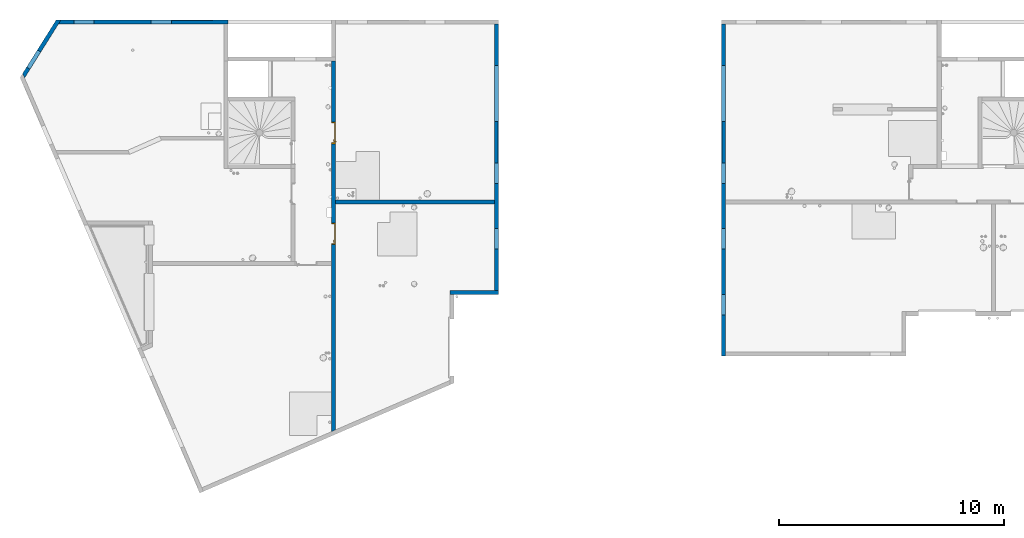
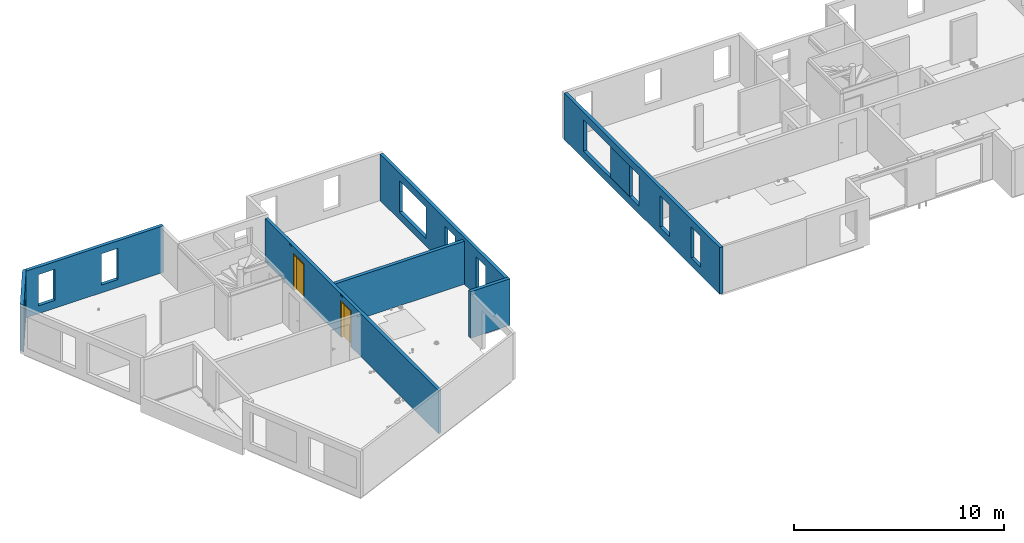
# One storey, part 5 of 24: 7 walls, 2 doors, 17 openings.
"""IFC2X3 building model written with IfcOpenShell, lengths in centimetres."""

from ifc_helpers import new_model, entity, si_unit, converted_unit, derived_unit, direction, frame, frame_2d, origin, place, context, subcontext, project, spatial, polyline, rectangle, outline, extrude, faceted_brep, source, transform, mapped, material, material_list, layer, layer_set, layer_usage, type_object, type_shapes, element, fill, save


model = new_model("IFC2X3")

# Units and contexts
model_context = context("Model", 3, precision=0.001, world=origin(), true_north=direction((6.12303176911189e-17, 1.0)))
body_context = subcontext(model_context, "Body", "Model", "MODEL_VIEW")
ifc_project = project(units=[si_unit("LENGTHUNIT", "METRE", prefix="CENTI"), si_unit("AREAUNIT", "SQUARE_METRE"), si_unit("VOLUMEUNIT", "CUBIC_METRE"), converted_unit("PLANEANGLEUNIT", "DEGREE", entity("IfcRatioMeasure", 0.0174532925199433), si_unit("PLANEANGLEUNIT", "RADIAN"), dimensions=[0, 0, 0, 0, 0, 0, 0]), si_unit("MASSUNIT", "GRAM", prefix="KILO"), derived_unit("MASSDENSITYUNIT", [(si_unit("MASSUNIT", "GRAM", prefix="KILO"), 1), (si_unit("LENGTHUNIT", "METRE"), -3)]), si_unit("TIMEUNIT", "SECOND"), si_unit("FREQUENCYUNIT", "HERTZ"), si_unit("THERMODYNAMICTEMPERATUREUNIT", "DEGREE_CELSIUS"), derived_unit("THERMALTRANSMITTANCEUNIT", [(si_unit("MASSUNIT", "GRAM", prefix="KILO"), 1), (si_unit("THERMODYNAMICTEMPERATUREUNIT", "KELVIN"), -1), (si_unit("TIMEUNIT", "SECOND"), -3)]), derived_unit("VOLUMETRICFLOWRATEUNIT", [(si_unit("LENGTHUNIT", "METRE"), 3), (si_unit("TIMEUNIT", "SECOND"), -1)]), si_unit("ELECTRICCURRENTUNIT", "AMPERE"), si_unit("ELECTRICVOLTAGEUNIT", "VOLT"), si_unit("POWERUNIT", "WATT"), si_unit("FORCEUNIT", "NEWTON"), si_unit("ILLUMINANCEUNIT", "LUX"), si_unit("LUMINOUSFLUXUNIT", "LUMEN"), si_unit("LUMINOUSINTENSITYUNIT", "CANDELA"), derived_unit("USERDEFINED", [(si_unit("MASSUNIT", "GRAM", prefix="KILO"), -1), (si_unit("LENGTHUNIT", "METRE"), -2), (si_unit("TIMEUNIT", "SECOND"), 3), (si_unit("LUMINOUSFLUXUNIT", "LUMEN"), 1)]), derived_unit("LINEARVELOCITYUNIT", [(si_unit("LENGTHUNIT", "METRE"), 1), (si_unit("TIMEUNIT", "SECOND"), -1)]), si_unit("PRESSUREUNIT", "PASCAL"), derived_unit("USERDEFINED", [(si_unit("LENGTHUNIT", "METRE"), -2), (si_unit("MASSUNIT", "GRAM", prefix="KILO"), 1), (si_unit("TIMEUNIT", "SECOND"), -2)])], contexts=[model_context])

# Site, building, storey
site_placement = place(None, origin())
site = spatial("IfcSite", under=ifc_project, at=site_placement, Name="Default", CompositionType="ELEMENT")
building_placement = place(site_placement, origin())
building = spatial("IfcBuilding", under=site, at=building_placement, Name="CAGE 03", CompositionType="ELEMENT")
storey_placement = place(building_placement, frame((0.0, 0.0, 1150.0)))
storey = spatial("IfcBuildingStorey", under=building, at=storey_placement, Name="R+4", CompositionType="ELEMENT", Elevation=1150.0)

# Wall, opening
ifc_material_1 = material(Name="Béton, C25/30")
ifc_layer = layer(ifc_material_1, 18.0)
ifc_layer_set = layer_set([ifc_layer], Name="Mur de base:Voile BA 18")
ifc_layer_usage_1 = layer_usage(ifc_layer_set, "AXIS2", "NEGATIVE", 9.0)
wall_type = type_object("IfcWallType", Name="Mur de base:Voile BA 18", PredefinedType="STANDARD", material=ifc_layer_set)
wall_1_placement = place(storey_placement, frame((2759.68470555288, 5040.14221656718, 0.0), z_axis=(0.0, 0.0, 1.0), x_axis=(0.53179185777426, 0.846875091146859, 0.0)))
wall_1 = element("IfcWallStandardCase", 1, at=wall_1_placement, inside=storey, type_object=wall_type, material=ifc_layer_usage_1, Name="Mur de base:Voile BA 18", ObjectType="Mur de base:Voile BA 18", context=body_context, shape_type="SweptSolid", body=[
    extrude(outline(polyline([(305.009060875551, -9.0), (293.706032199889, 9.0), (12.3599581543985, 9.0), (0.0, -9.0), (283.754450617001, -9.0), (305.009060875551, -9.0)])), origin(), (0.0, 0.0, 1.0), 270.0),
])
opening_1_placement = place(wall_1_placement, frame((-5735.94875548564, -343.198356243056, 0.0), z_axis=(0.0, 0.0, 1.0), x_axis=(0.53179185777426, -0.846875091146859, 0.0)))
element("IfcOpeningElement", 2, at=opening_1_placement, cuts=wall_1, Name="Mur de base:Voile BA 18", ObjectType="Opening", context=body_context, shape_type="SweptSolid", body=[
    extrude(rectangle(XDim=181.0, YDim=91.0, at=frame_2d((-2.1316282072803e-13, 4.83169060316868e-13), x_axis=(1.0, 0.0))), frame((2929.58106391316, 5041.04669444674, 135.5), z_axis=(-0.846875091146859, 0.53179185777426, 0.0), x_axis=(0.0, 0.0, 1.0)), (0.0, 0.0, 1.0), 304.8),
])

# Wall, openings
ifc_layer_usage_2 = layer_usage(ifc_layer_set, "AXIS2", "NEGATIVE", 9.0)
wall_2_placement = place(storey_placement, frame((2918.20488781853, 5284.66066607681, 0.0)))
wall_2 = element("IfcWallStandardCase", 3, at=wall_2_placement, inside=storey, type_object=wall_type, material=ifc_layer_usage_2, Name="Mur de base:Voile BA 18", ObjectType="Mur de base:Voile BA 18", context=body_context, shape_type="SweptSolid", body=[
    extrude(outline(polyline([(754.160932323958, -9.0), (754.160932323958, 9.0), (11.3030286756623, 9.0), (0.0, -9.0), (736.160932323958, -9.0), (754.160932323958, -9.0)])), origin(), (0.0, 0.0, 1.0), 270.0),
])
opening_2_placement = place(wall_2_placement, origin())
element("IfcOpeningElement", 4, at=opening_2_placement, cuts=wall_2, Name="Mur de base:Voile BA 18", ObjectType="Recess", context=body_context, shape_type="SweptSolid", body=[
    extrude(rectangle(XDim=181.0, YDim=184.0, at=frame_2d((-1.06581410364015e-13, 0.0), x_axis=(1.0, 0.0))), frame((596.160932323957, 7.0, 135.5), z_axis=(0.0, 1.0, 0.0), x_axis=(0.0, 0.0, -1.0)), (0.0, 0.0, 1.0), 1.99999999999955),
])
opening_3_placement = place(wall_2_placement, frame((-2918.20488781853, -5284.66066607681, 0.0)))
element("IfcOpeningElement", 5, at=opening_3_placement, cuts=wall_2, Name="Mur de base:Voile BA 18", ObjectType="Opening", context=body_context, shape_type="SweptSolid", body=[
    extrude(rectangle(XDim=181.0, YDim=91.0000000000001, at=frame_2d((-2.1316282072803e-13, 0.0), x_axis=(1.0, 0.0))), frame((3376.86582014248, 5123.26066607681, 135.5), z_axis=(0.0, 1.0, 0.0), x_axis=(0.0, 0.0, 1.0)), (0.0, 0.0, 1.0), 304.8),
])
opening_4_placement = place(wall_2_placement, frame((-2918.20488781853, -5284.66066607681, 0.0)))
element("IfcOpeningElement", 6, at=opening_4_placement, cuts=wall_2, Name="Mur de base:Voile BA 18", ObjectType="Opening", context=body_context, shape_type="SweptSolid", body=[
    extrude(rectangle(XDim=181.0, YDim=91.0000000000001, at=frame_2d((-2.1316282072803e-13, 0.0), x_axis=(1.0, 0.0))), frame((3031.86582014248, 5123.26066607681, 135.5), z_axis=(0.0, 1.0, 0.0), x_axis=(0.0, 0.0, 1.0)), (0.0, 0.0, 1.0), 304.8),
])

# Wall
ifc_layer_usage_3 = layer_usage(ifc_layer_set, "AXIS2", "POSITIVE", -9.0)
wall_3_placement = place(storey_placement, frame((4662.36582014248, 4081.16066607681, 0.0)))
element("IfcWallStandardCase", 7, at=wall_3_placement, inside=storey, type_object=wall_type, material=ifc_layer_usage_3, Name="Mur de base:Voile BA 18", ObjectType="Mur de base:Voile BA 18", context=body_context, shape_type="SweptSolid", body=[
    extrude(rectangle(XDim=216.0, YDim=17.9999999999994, at=frame_2d((108.0, -7.63833440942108e-14), x_axis=(-1.0, 0.0))), origin(), (0.0, 0.0, 1.0), 270.0),
])

# Wall, openings
ifc_layer_usage_4 = layer_usage(ifc_layer_set, "AXIS2", "POSITIVE", -9.0)
wall_4_placement = place(storey_placement, frame((4869.36582014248, 4090.16066607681, 0.0), z_axis=(0.0, 0.0, 1.0), x_axis=(0.0, 1.0, 0.0)))
wall_4 = element("IfcWallStandardCase", 8, at=wall_4_placement, inside=storey, type_object=wall_type, material=ifc_layer_usage_4, Name="Mur de base:Voile BA 18", ObjectType="Mur de base:Voile BA 18", context=body_context, shape_type="SweptSolid", body=[
    extrude(rectangle(XDim=1185.5, YDim=17.9999999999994, at=frame_2d((592.75, -1.26121335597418e-13), x_axis=(-1.0, 0.0))), origin(), (0.0, 0.0, 1.0), 270.0),
])
opening_5_placement = place(wall_4_placement, origin())
element("IfcOpeningElement", 9, at=opening_5_placement, cuts=wall_4, Name="Mur de base:Voile BA 18", ObjectType="Recess", context=body_context, shape_type="SweptSolid", body=[
    extrude(rectangle(XDim=181.0, YDim=184.0, at=frame_2d((-1.06581410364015e-13, 0.0), x_axis=(1.0, 0.0))), frame((658.499999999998, -9.0, 135.5), z_axis=(0.0, 1.0, 0.0), x_axis=(0.0, 0.0, -1.0)), (0.0, 0.0, 1.0), 1.99999999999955),
])
opening_6_placement = place(wall_4_placement, frame((-4090.16066607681, 4869.36582014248, 0.0), z_axis=(0.0, 0.0, 1.0), x_axis=(0.0, -1.0, 0.0)))
element("IfcOpeningElement", 10, at=opening_6_placement, cuts=wall_4, Name="Mur de base:Voile BA 18", ObjectType="Opening", context=body_context, shape_type="SweptSolid", body=[
    extrude(rectangle(XDim=181.0, YDim=91.0000000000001, at=frame_2d((-2.1316282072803e-13, 0.0), x_axis=(1.0, 0.0))), frame((5012.76582014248, 4611.16066607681, 135.5), z_axis=(-1.0, 0.0, 0.0), x_axis=(0.0, 0.0, 1.0)), (0.0, 0.0, 1.0), 304.8),
])
opening_7_placement = place(wall_4_placement, frame((-4090.16066607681, 4869.36582014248, 0.0), z_axis=(0.0, 0.0, 1.0), x_axis=(0.0, -1.0, 0.0)))
element("IfcOpeningElement", 11, at=opening_7_placement, cuts=wall_4, Name="Mur de base:Voile BA 18", ObjectType="Opening", context=body_context, shape_type="SweptSolid", body=[
    extrude(rectangle(XDim=181.0, YDim=251.0, at=frame_2d((-2.1316282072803e-13, 0.0), x_axis=(1.0, 0.0))), frame((5012.76582014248, 4966.16066607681, 135.5), z_axis=(-1.0, 0.0, 0.0), x_axis=(0.0, 0.0, 1.0)), (0.0, 0.0, 1.0), 304.8),
])
opening_8_placement = place(wall_4_placement, frame((-4090.16066607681, 4869.36582014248, 0.0), z_axis=(0.0, 0.0, 1.0), x_axis=(0.0, -1.0, 0.0)))
element("IfcOpeningElement", 12, at=opening_8_placement, cuts=wall_4, Name="Mur de base:Voile BA 18", ObjectType="Opening", context=body_context, shape_type="SweptSolid", body=[
    extrude(rectangle(XDim=181.0, YDim=91.0000000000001, at=frame_2d((-2.1316282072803e-13, 0.0), x_axis=(1.0, 0.0))), frame((5012.76582014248, 4320.16066607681, 135.5), z_axis=(-1.0, 0.0, 0.0), x_axis=(0.0, 0.0, 1.0)), (0.0, 0.0, 1.0), 304.8),
])

ifc_layer_usage_5 = layer_usage(ifc_layer_set, "AXIS2", "POSITIVE", -9.0)
wall_5_placement = place(storey_placement, frame((5879.36582014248, 5275.6606660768, 0.0), z_axis=(0.0, 0.0, 1.0), x_axis=(0.0, -1.0, 0.0)))
wall_5 = element("IfcWallStandardCase", 13, at=wall_5_placement, inside=storey, type_object=wall_type, material=ifc_layer_usage_5, Name="Mur de base:Voile BA 18", ObjectType="Mur de base:Voile BA 18", context=body_context, shape_type="SweptSolid", body=[
    extrude(rectangle(XDim=1479.0, YDim=17.9999999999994, at=frame_2d((739.499999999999, 2.36255459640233e-13), x_axis=(-1.0, 0.0))), origin(), (0.0, 0.0, 1.0), 270.0),
])
opening_9_placement = place(wall_5_placement, origin())
element("IfcOpeningElement", 14, at=opening_9_placement, cuts=wall_5, Name="Mur de base:Voile BA 18", ObjectType="Recess", context=body_context, shape_type="SweptSolid", body=[
    extrude(rectangle(XDim=181.0, YDim=184.0, at=frame_2d((0.0, -1.06581410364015e-13), x_axis=(0.0, 1.0))), frame((527.0, -9.0, 135.5), z_axis=(0.0, 1.0, 0.0), x_axis=(1.0, 0.0, 0.0)), (0.0, 0.0, 1.0), 1.99999999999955),
])
opening_10_placement = place(wall_5_placement, frame((5275.6606660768, -5879.36582014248, 0.0), z_axis=(0.0, 0.0, 1.0), x_axis=(0.0, 1.0, 0.0)))
element("IfcOpeningElement", 15, at=opening_10_placement, cuts=wall_5, Name="Mur de base:Voile BA 18", ObjectType="Opening", context=body_context, shape_type="SweptSolid", body=[
    extrude(rectangle(XDim=181.0, YDim=91.0000000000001, at=frame_2d((0.0, 0.0), x_axis=(0.0, 1.0))), frame((5735.96582014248, 4611.1606660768, 135.5), z_axis=(1.0, 0.0, 0.0), x_axis=(0.0, 1.0, 0.0)), (0.0, 0.0, 1.0), 304.8),
])
opening_11_placement = place(wall_5_placement, frame((5275.6606660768, -5879.36582014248, 0.0), z_axis=(0.0, 0.0, 1.0), x_axis=(0.0, 1.0, 0.0)))
element("IfcOpeningElement", 16, at=opening_11_placement, cuts=wall_5, Name="Mur de base:Voile BA 18", ObjectType="Opening", context=body_context, shape_type="SweptSolid", body=[
    extrude(rectangle(XDim=181.0, YDim=251.0, at=frame_2d((0.0, 0.0), x_axis=(0.0, 1.0))), frame((5735.96582014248, 4966.1606660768, 135.5), z_axis=(1.0, 0.0, 0.0), x_axis=(0.0, 1.0, 0.0)), (0.0, 0.0, 1.0), 304.8),
])
opening_12_placement = place(wall_5_placement, frame((5275.6606660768, -5879.36582014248, 0.0), z_axis=(0.0, 0.0, 1.0), x_axis=(0.0, 1.0, 0.0)))
element("IfcOpeningElement", 17, at=opening_12_placement, cuts=wall_5, Name="Mur de base:Voile BA 18", ObjectType="Opening", context=body_context, shape_type="SweptSolid", body=[
    extrude(rectangle(XDim=181.0, YDim=91.0000000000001, at=frame_2d((0.0, 0.0), x_axis=(0.0, 1.0))), frame((5735.96582014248, 4025.16066607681, 135.5), z_axis=(1.0, 0.0, 0.0), x_axis=(0.0, 1.0, 0.0)), (0.0, 0.0, 1.0), 304.8),
])
opening_13_placement = place(wall_5_placement, frame((5275.6606660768, -5879.36582014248, 0.0), z_axis=(0.0, 0.0, 1.0), x_axis=(0.0, 1.0, 0.0)))
element("IfcOpeningElement", 18, at=opening_13_placement, cuts=wall_5, Name="Mur de base:Voile BA 18", ObjectType="Opening", context=body_context, shape_type="SweptSolid", body=[
    extrude(rectangle(XDim=181.0, YDim=91.0000000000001, at=frame_2d((0.0, 0.0), x_axis=(0.0, 1.0))), frame((5735.96582014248, 4320.1606660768, 135.5), z_axis=(1.0, 0.0, 0.0), x_axis=(0.0, 1.0, 0.0)), (0.0, 0.0, 1.0), 304.8),
])

# Wall
ifc_layer_usage_6 = layer_usage(ifc_layer_set, "AXIS2", "NEGATIVE", 9.0)
wall_6_placement = place(storey_placement, frame((4152.36582014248, 4483.66066607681, 0.0)))
element("IfcWallStandardCase", 19, at=wall_6_placement, inside=storey, type_object=wall_type, material=ifc_layer_usage_6, Name="Mur de base:Voile BA 18", ObjectType="Mur de base:Voile BA 18", context=body_context, shape_type="SweptSolid", body=[
    extrude(rectangle(XDim=708.000000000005, YDim=17.9999999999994, at=frame_2d((354.000000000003, 2.16715534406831e-13), x_axis=(-1.0, 0.0))), origin(), (0.0, 0.0, 1.0), 250.0),
])

# Wall, openings, doors
ifc_layer_usage_7 = layer_usage(ifc_layer_set, "AXIS2", "POSITIVE", -9.0)
wall_7_placement = place(storey_placement, frame((4143.36582014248, 5110.66066607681, 0.0), z_axis=(0.0, 0.0, 1.0), x_axis=(0.0, -1.0, 0.0)))
wall_7 = element("IfcWallStandardCase", 20, at=wall_7_placement, inside=storey, type_object=wall_type, material=ifc_layer_usage_7, Name="Mur de base:Voile BA 18", ObjectType="Mur de base:Voile BA 18", context=body_context, shape_type="SweptSolid", body=[
    extrude(outline(polyline([(0.0, -9.0), (654.499999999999, -9.0), (694.499999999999, -9.0), (892.499999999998, -9.0), (910.499999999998, -9.0), (1649.885805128, -9.0), (1642.09747984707, 9.0), (636.0, 9.0), (618.0, 9.0), (0.0, 9.0), (0.0, -9.0)])), origin(), (0.0, 0.0, 1.0), 250.0),
])
opening_14_placement = place(wall_7_placement, origin())
element("IfcOpeningElement", 21, at=opening_14_placement, cuts=wall_7, Name="Mur de base:Voile BA 18", ObjectType="Opening", context=body_context, shape_type="SweptSolid", body=[
    extrude(rectangle(XDim=10.0000000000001, YDim=19.9999999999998, at=frame_2d((-4.33431068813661e-13, 1.08357767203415e-13), x_axis=(0.0, 1.0))), frame((728.0, -9.0, 242.500000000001), z_axis=(0.0, 1.0, 0.0), x_axis=(1.0, 0.0, 0.0)), (0.0, 0.0, 1.0), 17.9999999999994),
])
opening_15_placement = place(wall_7_placement, origin())
element("IfcOpeningElement", 22, at=opening_15_placement, cuts=wall_7, Name="Mur de base:Voile BA 18", ObjectType="Opening", context=body_context, shape_type="SweptSolid", body=[
    extrude(rectangle(XDim=10.0000000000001, YDim=19.9999999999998, at=frame_2d((-4.33431068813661e-13, 1.08357767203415e-13), x_axis=(0.0, 1.0))), frame((240.0, -9.0, 242.500000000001), z_axis=(0.0, 1.0, 0.0), x_axis=(1.0, 0.0, 0.0)), (0.0, 0.0, 1.0), 17.9999999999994),
])
opening_16_placement = place(wall_7_placement, frame((720.0, -9.0, 0.0)))
opening_16 = element("IfcOpeningElement", 23, at=opening_16_placement, cuts=wall_7, Name="Int. Simple:HB93:1", ObjectType="Opening", context=body_context, shape_type="SweptSolid", body=[
    extrude(rectangle(XDim=210.000000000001, YDim=96.9999999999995, at=frame_2d((105.000000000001, 48.4999999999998), x_axis=(1.0, 0.0))), frame((0.0, 0.0, 0.0), z_axis=(0.0, 1.0, 0.0), x_axis=(0.0, 0.0, 1.0)), (0.0, 0.0, 1.0), 18.0),
])
opening_17_placement = place(wall_7_placement, frame((271.500000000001, -9.0, 0.0)))
opening_17 = element("IfcOpeningElement", 24, at=opening_17_placement, cuts=wall_7, Name="Int. Simple:HB93:1", ObjectType="Opening", context=body_context, shape_type="SweptSolid", body=[
    extrude(rectangle(XDim=210.000000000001, YDim=96.9999999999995, at=frame_2d((105.000000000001, 48.4999999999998), x_axis=(1.0, 0.0))), frame((0.0, 0.0, 0.0), z_axis=(0.0, 1.0, 0.0), x_axis=(0.0, 0.0, 1.0)), (0.0, 0.0, 1.0), 18.0),
])
ifc_material_2 = material(Name="Finition Peinture - Blanc satiné")
ifc_material_3 = material(Name="Bois - Panneau de porte")
ifc_material_4 = material(Name="Bois - Cadre de porte")
ifc_material_list_1 = material_list([ifc_material_2, ifc_material_3, ifc_material_4])
ifc_material_list_2 = material_list([ifc_material_2, ifc_material_3, ifc_material_4])
door_style = type_object("IfcDoorStyle", Name="HB93", ConstructionType="NOTDEFINED", OperationType="SINGLE_SWING_LEFT", ParameterTakesPrecedence=False, Sizeable=False, material=ifc_material_list_2)
shared_shape = source(origin(), body_context, "Body", "Brep", [
    faceted_brep([(10.5352761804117, -0.500000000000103, 86.6003983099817), (11.5000000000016, -0.500000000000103, 87.0), (11.5000000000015, -0.500000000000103, 108.0), (10.5352761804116, -0.500000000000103, 108.399601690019), (9.50000000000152, -0.500000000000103, 108.535898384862), (8.46472381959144, -0.500000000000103, 108.399601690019), (7.50000000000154, -0.500000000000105, 108.0), (7.50000000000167, -0.500000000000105, 87.0), (8.46472381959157, -0.500000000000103, 86.6003983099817), (9.50000000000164, -0.500000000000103, 86.464101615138), (10.5352761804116, 0.0, 108.399601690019), (11.5000000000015, 0.0, 108.0), (11.5000000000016, 0.0, 87.0), (10.5352761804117, 0.0, 86.6003983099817), (9.50000000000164, 0.0, 86.464101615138), (8.46472381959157, 0.0, 86.6003983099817), (7.50000000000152, 0.0, 87.0), (7.50000000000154, 0.0, 108.0), (8.46472381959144, 0.0, 108.399601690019), (9.50000000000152, 0.0, 108.535898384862)], [[[0, 1, 2, 3, 4, 5, 6, 7, 8, 9]], [[10, 11, 12, 13, 14, 15, 16, 17, 18, 19]], [[16, 15, 8, 7]], [[8, 15, 14, 9]], [[14, 13, 0, 9]], [[13, 12, 1, 0]], [[2, 1, 12, 11]], [[11, 10, 3, 2]], [[3, 10, 19, 4]], [[19, 18, 5, 4]], [[18, 17, 6, 5]], [[7, 6, 17, 16]]]),
    faceted_brep([(10.5352761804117, 4.0, 86.6003983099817), (11.5000000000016, 4.0, 87.0), (11.5000000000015, 4.0, 108.0), (10.5352761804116, 4.0, 108.399601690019), (9.50000000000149, 4.0, 108.535898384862), (8.46472381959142, 4.0, 108.399601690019), (7.50000000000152, 4.0, 108.0), (7.50000000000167, 4.0, 87.0), (8.46472381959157, 4.0, 86.6003983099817), (9.50000000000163, 4.0, 86.464101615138), (10.5352761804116, 4.49999999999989, 108.399601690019), (11.5000000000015, 4.4999999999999, 108.0), (11.5000000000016, 4.4999999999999, 87.0), (10.5352761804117, 4.49999999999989, 86.6003983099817), (9.50000000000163, 4.49999999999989, 86.464101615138), (8.46472381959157, 4.49999999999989, 86.6003983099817), (7.50000000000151, 4.49999999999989, 87.0), (7.50000000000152, 4.49999999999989, 108.0), (8.46472381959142, 4.49999999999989, 108.399601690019), (9.50000000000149, 4.49999999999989, 108.535898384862)], [[[0, 1, 2, 3, 4, 5, 6, 7, 8, 9]], [[10, 11, 12, 13, 14, 15, 16, 17, 18, 19]], [[11, 10, 3, 2]], [[3, 10, 19, 4]], [[19, 18, 5, 4]], [[18, 17, 6, 5]], [[7, 6, 17, 16]], [[16, 15, 8, 7]], [[8, 15, 14, 9]], [[14, 13, 0, 9]], [[13, 12, 1, 0]], [[2, 1, 12, 11]]]),
    faceted_brep([(9.29747013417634, -0.500000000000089, 100.778044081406), (9.70252986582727, -0.500000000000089, 100.778044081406), (10.1000000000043, -0.500000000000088, 100.699999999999), (10.1000000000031, -0.500000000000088, 99.3000000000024), (9.70252986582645, -0.500000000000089, 99.2219559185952), (9.29747013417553, -0.500000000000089, 99.221955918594), (8.89999999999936, -0.500000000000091, 99.2999999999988), (8.89999999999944, -0.500000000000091, 100.7), (8.89999999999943, -3.26509507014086, 100.7), (9.29747013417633, -3.10045754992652, 100.778044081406), (10.9023585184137, -4.70534593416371, 100.778044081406), (11.0701397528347, -4.30028620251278, 100.778044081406), (9.70252986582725, -2.93267631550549, 100.778044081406), (10.1000000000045, -2.76803879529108, 100.7), (10.1000000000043, -2.76803879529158, 99.3000000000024), (9.70252986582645, -2.93267631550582, 99.2219559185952), (11.0701397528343, -4.30028620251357, 99.2219559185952), (10.9023585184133, -4.70534593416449, 99.221955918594), (9.29747013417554, -3.10045754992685, 99.221955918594), (8.89999999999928, -3.26509507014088, 99.2999999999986), (10.7377209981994, -5.1028160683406, 100.7), (11.2347772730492, -3.90281606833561, 100.7), (11.2347772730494, -3.90281606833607, 99.3000000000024), (10.7377209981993, -5.10281606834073, 99.2999999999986), (19.5018640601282, -5.1028160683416, 99.2999999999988), (19.5018640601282, -4.70534593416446, 99.221955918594), (19.5018640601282, -4.30028620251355, 99.2219559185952), (19.5018640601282, -3.90281606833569, 99.3000000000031), (19.5018640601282, -3.90281606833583, 100.7), (19.5018640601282, -4.30028620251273, 100.778044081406), (19.5018640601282, -4.70534593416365, 100.778044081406), (19.5018640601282, -5.10281606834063, 100.699999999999), (14.7307697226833, -5.10281606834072, 100.7), (15.28600190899, -4.5028160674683, 100.78786867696), (15.3683206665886, -3.9028160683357, 100.7), (15.3683206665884, -3.90281606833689, 99.3000000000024), (15.2860018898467, -4.50281607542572, 99.2121313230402), (14.7307700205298, -5.10281606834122, 99.2999999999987)], [[[0, 1, 2, 3, 4, 5, 6, 7]], [[8, 9, 0, 7]], [[9, 10, 11, 12, 1, 0]], [[12, 13, 2, 1]], [[3, 2, 13, 14]], [[14, 15, 4, 3]], [[15, 16, 17, 18, 5, 4]], [[18, 19, 6, 5]], [[7, 6, 19, 8]], [[20, 10, 9, 8]], [[11, 21, 13, 12]], [[14, 13, 21, 22]], [[22, 16, 15, 14]], [[17, 23, 19, 18]], [[8, 19, 23, 20]], [[24, 25, 26, 27, 28, 29, 30, 31]], [[32, 30, 33]], [[31, 30, 32]], [[10, 20, 32]], [[33, 34, 11]], [[21, 11, 34]], [[34, 29, 28]], [[30, 29, 33]], [[29, 34, 33]], [[10, 32, 33]], [[10, 33, 11]], [[22, 21, 34, 28, 27, 35]], [[35, 26, 36]], [[37, 36, 25]], [[22, 35, 16]], [[35, 27, 26]], [[24, 37, 25]], [[23, 17, 37]], [[37, 17, 36]], [[17, 16, 36]], [[16, 35, 36]], [[25, 36, 26]], [[20, 23, 37, 24, 31, 32]]]),
    faceted_brep([(9.29747013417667, 4.49999999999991, 100.778044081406), (8.89999999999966, 4.49999999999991, 100.7), (8.89999999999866, 4.49999999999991, 99.2999999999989), (9.2974701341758, 4.49999999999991, 99.221955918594), (9.70252986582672, 4.49999999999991, 99.2219559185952), (10.1000000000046, 4.49999999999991, 99.3000000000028), (10.1000000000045, 4.49999999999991, 100.7), (9.70252986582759, 4.49999999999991, 100.778044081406), (10.1000000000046, 6.7485204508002, 99.3000000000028), (10.1000000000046, 6.74852045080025, 100.7), (9.70252986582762, 6.91315797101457, 100.778044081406), (11.0838906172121, 8.29451872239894, 100.778044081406), (10.9161093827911, 8.69957845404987, 100.778044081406), (9.29747013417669, 7.0809392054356, 100.778044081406), (8.89999999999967, 7.24557672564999, 100.7), (8.89999999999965, 7.24557672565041, 99.2999999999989), (9.29747013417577, 7.08093920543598, 99.221955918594), (10.9161093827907, 8.69957845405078, 99.221955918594), (11.0838906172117, 8.29451872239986, 99.2219559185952), (9.7025298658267, 6.91315797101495, 99.2219559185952), (11.2485281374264, 7.89704858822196, 99.3000000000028), (11.2485281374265, 7.89704858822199, 100.7), (10.7514718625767, 9.0970485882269, 100.7), (10.751471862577, 9.0970485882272, 99.2999999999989), (19.504578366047, 7.89704858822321, 99.3000000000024), (19.504578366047, 8.29451872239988, 99.2219559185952), (19.504578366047, 8.6995784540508, 99.221955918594), (19.504578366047, 9.09704858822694, 99.2999999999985), (19.504578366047, 9.09704858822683, 100.7), (19.504578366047, 8.69957845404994, 100.778044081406), (19.504578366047, 8.29451872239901, 100.778044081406), (19.504578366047, 7.89704858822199, 100.7), (15.3765520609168, 7.89704858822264, 99.3000000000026), (15.3765532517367, 7.89704858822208, 100.7), (15.294234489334, 8.49704858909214, 100.78786867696), (14.7445205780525, 9.09704858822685, 100.7), (14.7445204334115, 9.09704858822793, 99.2999999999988), (15.2942345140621, 8.49704858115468, 99.2121313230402)], [[[0, 1, 2, 3, 4, 5, 6, 7]], [[6, 5, 8, 9]], [[9, 10, 7, 6]], [[10, 11, 12, 13, 0, 7]], [[13, 14, 1, 0]], [[2, 1, 14, 15]], [[15, 16, 3, 2]], [[16, 17, 18, 19, 4, 3]], [[19, 8, 5, 4]], [[9, 8, 20, 21]], [[21, 11, 10, 9]], [[12, 22, 14, 13]], [[15, 14, 22, 23]], [[23, 17, 16, 15]], [[18, 20, 8, 19]], [[24, 25, 26, 27, 28, 29, 30, 31]], [[21, 20, 32, 24, 31, 33]], [[33, 30, 34]], [[35, 34, 29]], [[21, 33, 11]], [[33, 31, 30]], [[28, 35, 29]], [[22, 12, 35]], [[35, 12, 34]], [[12, 11, 34]], [[11, 33, 34]], [[29, 34, 30]], [[22, 35, 28, 27, 36, 23]], [[36, 26, 37]], [[27, 26, 36]], [[17, 23, 36]], [[37, 32, 18]], [[20, 18, 32]], [[32, 25, 24]], [[26, 25, 37]], [[25, 32, 37]], [[17, 36, 37]], [[17, 37, 18]]]),
    faceted_brep([(3.50000000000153, 4.0, 206.5), (93.5000000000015, 4.0, 206.5), (93.5000000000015, 4.0, 0.0), (3.50000000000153, 4.0, 0.0), (3.50000000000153, 0.0, 206.5), (3.50000000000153, 0.0, 0.0), (93.5000000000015, 0.0, 0.0), (93.5000000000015, 0.0, 206.5)], [[[0, 1, 2, 3]], [[4, 5, 6, 7]], [[1, 0, 4, 7]], [[2, 1, 7, 6]], [[3, 2, 6, 5]], [[0, 3, 5, 4]]]),
    faceted_brep([(0.0, 0.0, 0.0), (0.0, 18.0, 0.0), (5.0, 18.0, 0.0), (5.0, 4.0, 0.0), (3.50000000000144, 4.0, 0.0), (3.50000000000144, 0.0, 0.0), (0.0, 0.0, 210.0), (0.0, 18.0, 210.0), (97.0, 18.0, 210.0), (97.0, 18.0, 0.0), (92.0, 18.0, 0.0), (92.0, 18.0, 205.0), (5.0, 18.0, 205.0), (5.0, 4.0, 205.0), (92.0, 4.0, 205.0), (92.0, 4.0, 0.0), (93.4999999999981, 4.0, 0.0), (93.4999999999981, 4.0, 206.5), (3.50000000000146, 4.0, 206.5), (3.50000000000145, 0.0, 206.5), (93.4999999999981, 0.0, 206.5), (93.4999999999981, 0.0, 0.0), (97.0, 0.0, 0.0), (97.0, 0.0, 210.0)], [[[0, 1, 2, 3, 4, 5]], [[1, 0, 6, 7]], [[2, 1, 7, 8, 9, 10, 11, 12]], [[3, 2, 12, 13]], [[4, 3, 13, 14, 15, 16, 17, 18]], [[5, 4, 18, 19]], [[0, 5, 19, 20, 21, 22, 23, 6]], [[8, 23, 22, 9]], [[22, 21, 16, 15, 10, 9]], [[14, 11, 10, 15]], [[20, 17, 16, 21]], [[7, 6, 23, 8]], [[13, 12, 11, 14]], [[19, 18, 17, 20]]]),
    faceted_brep([(1.5, 18.0, 0.0), (-1.49999999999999, 18.0, 0.0), (-1.49999999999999, 18.5000000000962, 0.0), (1.5, 18.5000000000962, 0.0), (1.5, 18.0, 208.500000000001), (95.4999999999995, 18.0, 208.500000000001), (95.4999999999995, 18.0, 0.0), (98.4999999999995, 18.0, 0.0), (98.4999999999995, 18.0, 211.500000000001), (-1.49999999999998, 18.0, 211.500000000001), (-1.49999999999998, 18.5000000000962, 211.500000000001), (98.4999999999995, 18.5000000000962, 211.500000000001), (98.4999999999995, 18.5000000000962, 0.0), (95.4999999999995, 18.5000000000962, 0.0), (95.4999999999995, 18.5000000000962, 208.500000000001), (1.50000000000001, 18.5000000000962, 208.500000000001)], [[[0, 1, 2, 3]], [[1, 0, 4, 5, 6, 7, 8, 9]], [[2, 1, 9, 10]], [[3, 2, 10, 11, 12, 13, 14, 15]], [[0, 3, 15, 4]], [[6, 13, 12, 7]], [[5, 14, 13, 6]], [[11, 8, 7, 12]], [[10, 9, 8, 11]], [[4, 15, 14, 5]]]),
    faceted_brep([(-1.49999999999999, -0.5, 0.0), (1.5, -0.5, 0.0), (1.5, -0.5, 208.500000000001), (95.4999999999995, -0.5, 208.500000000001), (95.4999999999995, -0.5, 0.0), (98.4999999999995, -0.5, 0.0), (98.4999999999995, -0.5, 211.500000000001), (-1.49999999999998, -0.5, 211.500000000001), (-1.49999999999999, 0.0, 0.0), (-1.49999999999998, 0.0, 211.500000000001), (1.5, 0.0, 0.0), (98.4999999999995, 0.0, 211.500000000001), (98.4999999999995, 0.0, 0.0), (95.4999999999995, 0.0, 0.0), (95.4999999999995, 0.0, 208.500000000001), (1.50000000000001, 0.0, 208.500000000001)], [[[0, 1, 2, 3, 4, 5, 6, 7]], [[8, 0, 7, 9]], [[10, 8, 9, 11, 12, 13, 14, 15]], [[1, 10, 15, 2]], [[3, 14, 13, 4]], [[11, 6, 5, 12]], [[9, 7, 6, 11]], [[2, 15, 14, 3]], [[4, 13, 12, 5]], [[1, 0, 8, 10]]]),
])
type_shapes(door_style, [shared_shape])
door_1_placement = place(opening_16_placement, frame((97.0, 18.0, 0.0), z_axis=(0.0, 0.0, 1.0), x_axis=(-1.0, 0.0, 0.0)))
door_1 = element("IfcDoor", 25, at=door_1_placement, inside=storey, type_object=door_style, material=ifc_material_list_1, Name="Int. Simple:HB93", ObjectType="HB93", OverallHeight=210.000000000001, OverallWidth=96.9999999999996, context=body_context, shape_type="MappedRepresentation", body=[
    mapped(shared_shape, transform((0.0, 0.0, 0.0), scale=1.0)),
])
fill(opening_16, door_1)
ifc_material_list_3 = material_list([ifc_material_2, ifc_material_3, ifc_material_4])
door_2_placement = place(opening_17_placement, frame((97.0, 18.0, 0.0), z_axis=(0.0, 0.0, 1.0), x_axis=(-1.0, 0.0, 0.0)))
door_2 = element("IfcDoor", 26, at=door_2_placement, inside=storey, type_object=door_style, material=ifc_material_list_3, Name="Int. Simple:HB93", ObjectType="HB93", OverallHeight=210.000000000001, OverallWidth=96.9999999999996, context=body_context, shape_type="MappedRepresentation", body=[
    mapped(shared_shape, transform((0.0, 0.0, 0.0), scale=1.0)),
])
fill(opening_17, door_2)

save(model, "model.ifc")
